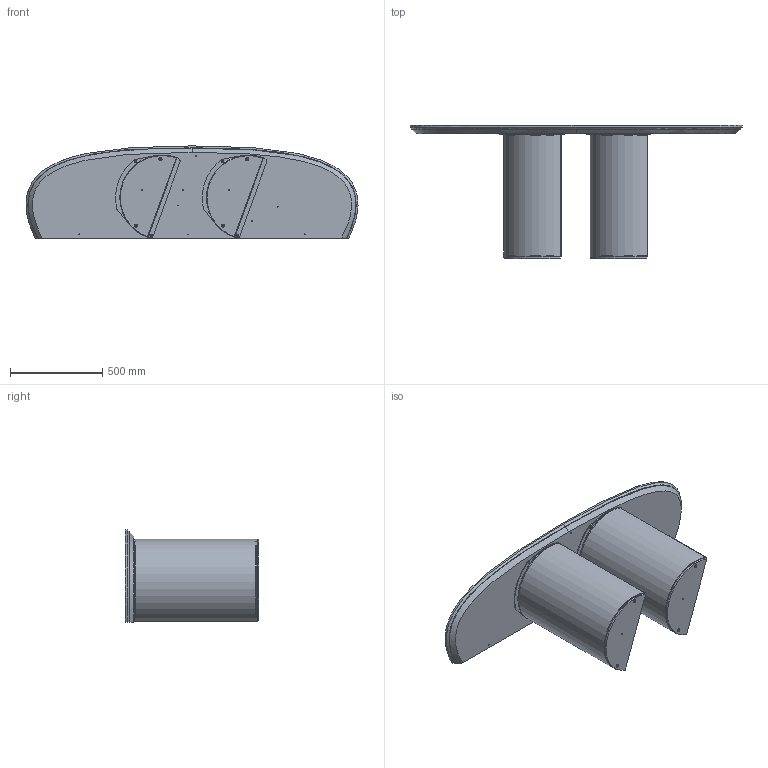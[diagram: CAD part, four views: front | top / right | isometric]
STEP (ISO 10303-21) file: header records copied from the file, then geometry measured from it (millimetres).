
FILE_DESCRIPTION (( 'STEP AP203' ), '1' );
FILE_NAME ('PL61M_Plai Console_180x50x72h_Marble.STEP', '2024-08-06T09:55:14', ( '' ), ( '' ), 'SwSTEP 2.0', 'SolidWorks 2022', '' );
FILE_SCHEMA (( 'CONFIG_CONTROL_DESIGN' ));
Length unit declared in the file: millimetre
Products named in the file (9): PL61M_Plai Console_180x50x72h_Marble; KXXXX-00-piani MARMO Sasso per console_180x50; M8xXXmm_hex_M8X20mm; PLA000000ZOC-01-PLAI ZOCCOLO DELLA BASE; KXXXX-00-piani MARMO Sasso per console_180X50; DOR000V01PST-00-DORA PIASTRA TELAIO; TRUXXXX-02-NOBILITATO Sasso per console_180x50; PLA000000BAS-00-PLAI BASE GREZZA; Assieme Basamento PLAI_Basamento per consolle
Assembly tree (10 placements, depth 3):
  PL61M_Plai Console_180x50x72h_Marble
    KXXXX-00-piani MARMO Sasso per console_180X50
      TRUXXXX-02-NOBILITATO Sasso per console_180x50
      KXXXX-00-piani MARMO Sasso per console_180x50
    Assieme Basamento PLAI_Basamento per consolle  x2
      PLA000000BAS-00-PLAI BASE GREZZA
      DOR000V01PST-00-DORA PIASTRA TELAIO
      PLA000000ZOC-01-PLAI ZOCCOLO DELLA BASE
      M8xXXmm_hex_M8X20mm
Bounding box: 1799.9 x 723 x 500 mm (x, y, z)
Volume: 41249384.7 mm3; surface area: 7600313.2 mm2
Topology: 18 solids, 18 shells, 398 faces, 912 edges, 526 vertices
Faces by surface type: plane 146, cylinder 144, cone 92, bspline 8, torus 8
Entity records: 9630 total; most frequent: CARTESIAN_POINT 3784, DIRECTION 1091, ORIENTED_EDGE 926, EDGE_CURVE 463, AXIS2_PLACEMENT_3D 428, VERTEX_POINT 289, EDGE_LOOP 260, VECTOR 235
